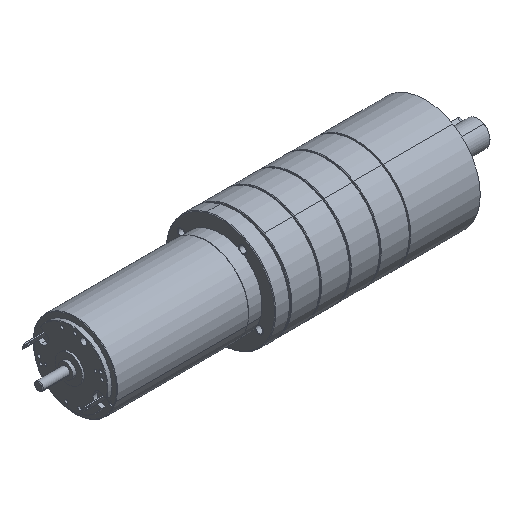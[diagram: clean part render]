
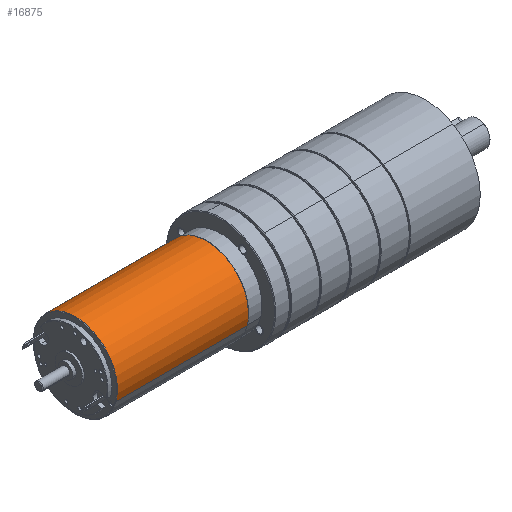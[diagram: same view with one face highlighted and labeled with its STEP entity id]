
A CAD part, isometric view. The second image highlights one B-rep face of the part: STEP entity #16875.
In plain terms, the highlighted cylindrical face has radius 20 mm (diameter 40 mm), a partial arc.
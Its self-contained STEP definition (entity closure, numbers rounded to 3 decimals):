
#264 = LINE ( 'NONE', #20564, #8725 ) ;
#1696 = EDGE_LOOP ( 'NONE', ( #11227, #12958, #15537, #20350 ) ) ;
#3385 = CARTESIAN_POINT ( 'NONE',  ( 0., 0., 20. ) ) ;
#3462 = DIRECTION ( 'NONE',  ( -1., 0., 0. ) ) ;
#3675 = AXIS2_PLACEMENT_3D ( 'NONE', #11031, #11371, #10979 ) ;
#4000 = CIRCLE ( 'NONE', #24745, 20. ) ;
#4249 = DIRECTION ( 'NONE',  ( -1., 0., 0. ) ) ;
#4804 = CARTESIAN_POINT ( 'NONE',  ( 89.1, 0., -20. ) ) ;
#5600 = DIRECTION ( 'NONE',  ( 0., 0., 1. ) ) ;
#7594 = VERTEX_POINT ( 'NONE', #4804 ) ;
#8084 = VERTEX_POINT ( 'NONE', #11737 ) ;
#8725 = VECTOR ( 'NONE', #20407, 1000. ) ;
#8930 = EDGE_CURVE ( 'NONE', #7594, #8084, #264, .T. ) ;
#9110 = LINE ( 'NONE', #3385, #19244 ) ;
#10625 = EDGE_CURVE ( 'NONE', #7594, #16493, #16586, .T. ) ;
#10979 = DIRECTION ( 'NONE',  ( 0., 0., 1. ) ) ;
#11031 = CARTESIAN_POINT ( 'NONE',  ( 0., 0., 0. ) ) ;
#11227 = ORIENTED_EDGE ( 'NONE', *, *, #8930, .F. ) ;
#11371 = DIRECTION ( 'NONE',  ( -1., 0., 0. ) ) ;
#11737 = CARTESIAN_POINT ( 'NONE',  ( 26.8, 0., -20. ) ) ;
#12958 = ORIENTED_EDGE ( 'NONE', *, *, #10625, .T. ) ;
#15136 = CARTESIAN_POINT ( 'NONE',  ( 89.1, 0., 0. ) ) ;
#15537 = ORIENTED_EDGE ( 'NONE', *, *, #16205, .T. ) ;
#16205 = EDGE_CURVE ( 'NONE', #16493, #20325, #9110, .T. ) ;
#16493 = VERTEX_POINT ( 'NONE', #22637 ) ;
#16586 = CIRCLE ( 'NONE', #19922, 20. ) ;
#16875 = ADVANCED_FACE ( 'NONE', ( #21814 ), #17821, .T. ) ;
#17821 = CYLINDRICAL_SURFACE ( 'NONE', #3675, 20. ) ;
#18660 = CARTESIAN_POINT ( 'NONE',  ( 26.8, 0., 20. ) ) ;
#19244 = VECTOR ( 'NONE', #3462, 1000. ) ;
#19764 = EDGE_CURVE ( 'NONE', #8084, #20325, #4000, .T. ) ;
#19922 = AXIS2_PLACEMENT_3D ( 'NONE', #15136, #4249, #5600 ) ;
#20325 = VERTEX_POINT ( 'NONE', #18660 ) ;
#20350 = ORIENTED_EDGE ( 'NONE', *, *, #19764, .F. ) ;
#20407 = DIRECTION ( 'NONE',  ( -1., 0., 0. ) ) ;
#20564 = CARTESIAN_POINT ( 'NONE',  ( 0., 0., -20. ) ) ;
#21814 = FACE_OUTER_BOUND ( 'NONE', #1696, .T. ) ;
#22637 = CARTESIAN_POINT ( 'NONE',  ( 89.1, 0., 20. ) ) ;
#24401 = DIRECTION ( 'NONE',  ( 0., 0., 1. ) ) ;
#24431 = DIRECTION ( 'NONE',  ( -1., 0., 0. ) ) ;
#24483 = CARTESIAN_POINT ( 'NONE',  ( 26.8, 0., 0. ) ) ;
#24745 = AXIS2_PLACEMENT_3D ( 'NONE', #24483, #24431, #24401 ) ;
